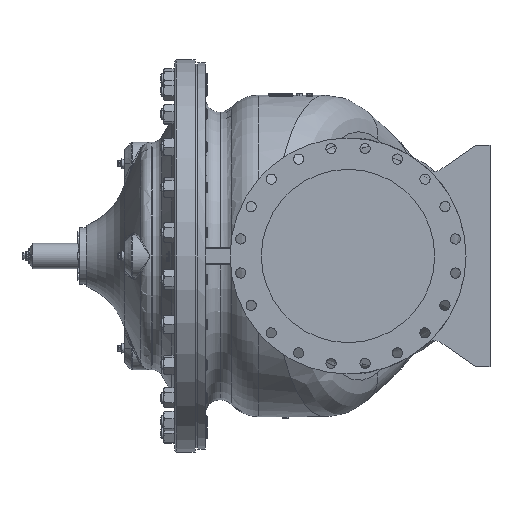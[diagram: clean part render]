
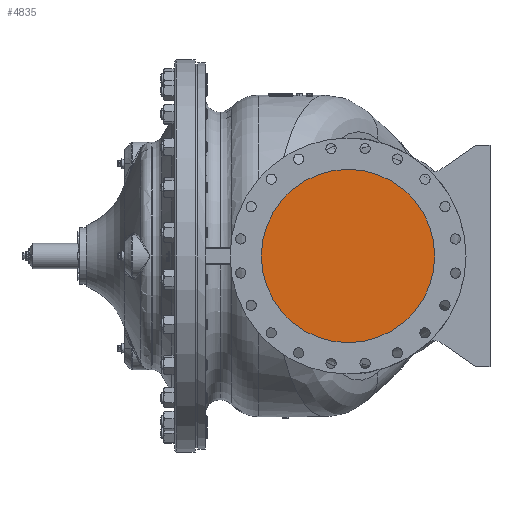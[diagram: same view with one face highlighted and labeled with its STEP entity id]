
A CAD part, left-side view. The second image highlights one B-rep face of the part: STEP entity #4835.
In plain terms, the highlighted planar face has unit normal (-1, 0, 0).
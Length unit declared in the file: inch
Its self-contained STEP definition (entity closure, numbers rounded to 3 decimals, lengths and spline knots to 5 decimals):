
#4835 = ADVANCED_FACE ( 'NONE', ( #12350 ), #17867, .T. ) ;
#9878 = EDGE_LOOP ( 'NONE', ( #31219, #35134 ) ) ;
#12081 = DIRECTION ( 'NONE',  ( 1., 0., 0. ) ) ;
#12350 = FACE_OUTER_BOUND ( 'NONE', #9878, .T. ) ;
#17867 = PLANE ( 'NONE',  #20455 ) ;
#20455 = AXIS2_PLACEMENT_3D ( 'NONE', #45165, #34132, #56137 ) ;
#28412 = AXIS2_PLACEMENT_3D ( 'NONE', #44871, #12081, #50383 ) ;
#31219 = ORIENTED_EDGE ( 'NONE', *, *, #67891, .F. ) ;
#31371 = DIRECTION ( 'NONE',  ( 1., 0., 0. ) ) ;
#31691 = CIRCLE ( 'NONE', #38443, 11.75 ) ;
#32136 = EDGE_CURVE ( 'NONE', #39963, #65434, #58372, .T. ) ;
#33737 = CARTESIAN_POINT ( 'NONE',  ( -28.25, 0., 11.75 ) ) ;
#34132 = DIRECTION ( 'NONE',  ( -1., 0., 0. ) ) ;
#35134 = ORIENTED_EDGE ( 'NONE', *, *, #32136, .F. ) ;
#38443 = AXIS2_PLACEMENT_3D ( 'NONE', #64077, #31371, #69543 ) ;
#39963 = VERTEX_POINT ( 'NONE', #66059 ) ;
#44871 = CARTESIAN_POINT ( 'NONE',  ( -28.25, 0., 0. ) ) ;
#45165 = CARTESIAN_POINT ( 'NONE',  ( -28.25, 0., 0. ) ) ;
#50383 = DIRECTION ( 'NONE',  ( 0., 0., -1. ) ) ;
#56137 = DIRECTION ( 'NONE',  ( 0., 0., -1. ) ) ;
#58372 = CIRCLE ( 'NONE', #28412, 11.75 ) ;
#64077 = CARTESIAN_POINT ( 'NONE',  ( -28.25, 0., 0. ) ) ;
#65434 = VERTEX_POINT ( 'NONE', #33737 ) ;
#66059 = CARTESIAN_POINT ( 'NONE',  ( -28.25, 0., -11.75 ) ) ;
#67891 = EDGE_CURVE ( 'NONE', #65434, #39963, #31691, .T. ) ;
#69543 = DIRECTION ( 'NONE',  ( 0., 0., -1. ) ) ;
